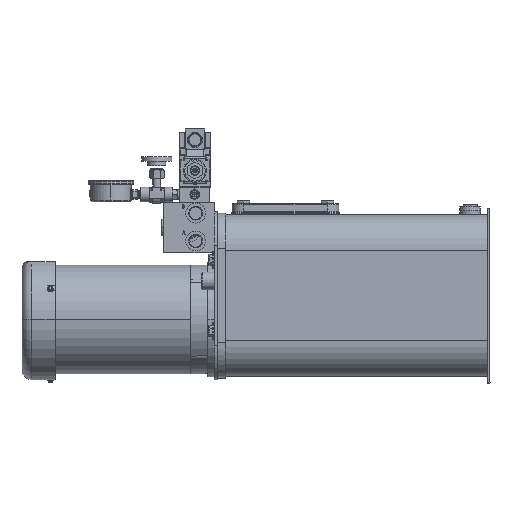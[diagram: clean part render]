
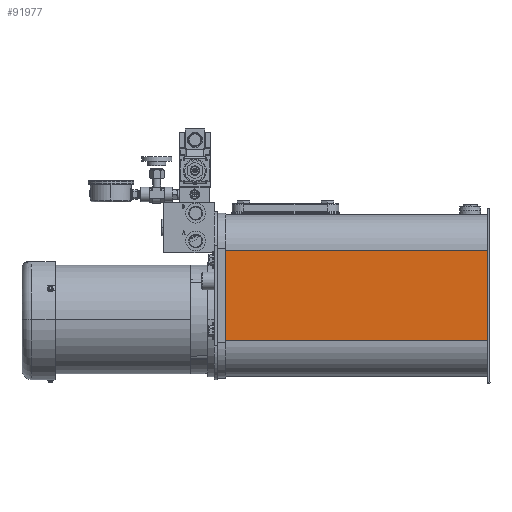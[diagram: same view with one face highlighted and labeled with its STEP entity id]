
A CAD part, top view. The second image highlights one B-rep face of the part: STEP entity #91977.
In plain terms, the highlighted planar face has unit normal (0, 0, 1).
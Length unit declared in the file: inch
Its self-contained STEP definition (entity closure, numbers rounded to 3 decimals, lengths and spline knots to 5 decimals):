
#5039 = CARTESIAN_POINT ( 'NONE',  ( -0.48316, 12.87104, 18.42602 ) ) ;
#6913 = EDGE_CURVE ( 'NONE', #51340, #74677, #55024, .T. ) ;
#10086 = CARTESIAN_POINT ( 'NONE',  ( -0.48316, 10.75144, 18.42602 ) ) ;
#14891 = ORIENTED_EDGE ( 'NONE', *, *, #135976, .F. ) ;
#20536 = CARTESIAN_POINT ( 'NONE',  ( -0.48316, 5.36564, 18.42602 ) ) ;
#20907 = VECTOR ( 'NONE', #145603, 39.37008 ) ;
#31379 = LINE ( 'NONE', #42716, #85090 ) ;
#42716 = CARTESIAN_POINT ( 'NONE',  ( 15.51684, 8.05854, 18.42602 ) ) ;
#43563 = VECTOR ( 'NONE', #64171, 39.37008 ) ;
#50444 = DIRECTION ( 'NONE',  ( 0., 0., -1. ) ) ;
#51340 = VERTEX_POINT ( 'NONE', #20536 ) ;
#53461 = EDGE_CURVE ( 'NONE', #74677, #72533, #108310, .T. ) ;
#53568 = LINE ( 'NONE', #99575, #20907 ) ;
#54286 = CARTESIAN_POINT ( 'NONE',  ( -0.48316, 12.87104, 18.42602 ) ) ;
#55024 = LINE ( 'NONE', #54286, #43563 ) ;
#60351 = FACE_OUTER_BOUND ( 'NONE', #121062, .T. ) ;
#64171 = DIRECTION ( 'NONE',  ( 0., 1., 0. ) ) ;
#66941 = DIRECTION ( 'NONE',  ( 0., -1., 0. ) ) ;
#72533 = VERTEX_POINT ( 'NONE', #79653 ) ;
#74677 = VERTEX_POINT ( 'NONE', #10086 ) ;
#79089 = ORIENTED_EDGE ( 'NONE', *, *, #6913, .F. ) ;
#79653 = CARTESIAN_POINT ( 'NONE',  ( 15.51684, 10.75144, 18.42602 ) ) ;
#82967 = DIRECTION ( 'NONE',  ( 0., -1., 0. ) ) ;
#85090 = VECTOR ( 'NONE', #66941, 39.37008 ) ;
#90631 = VERTEX_POINT ( 'NONE', #106497 ) ;
#91977 = ADVANCED_FACE ( 'NONE', ( #60351 ), #94298, .F. ) ;
#94298 = PLANE ( 'NONE',  #127663 ) ;
#96305 = ORIENTED_EDGE ( 'NONE', *, *, #141837, .T. ) ;
#99575 = CARTESIAN_POINT ( 'NONE',  ( -0.48316, 5.36564, 18.42602 ) ) ;
#106497 = CARTESIAN_POINT ( 'NONE',  ( 15.51684, 5.36564, 18.42602 ) ) ;
#108310 = LINE ( 'NONE', #147263, #147290 ) ;
#111058 = DIRECTION ( 'NONE',  ( 1., 0., 0. ) ) ;
#121062 = EDGE_LOOP ( 'NONE', ( #14891, #142067, #79089, #96305 ) ) ;
#127663 = AXIS2_PLACEMENT_3D ( 'NONE', #5039, #50444, #82967 ) ;
#135976 = EDGE_CURVE ( 'NONE', #72533, #90631, #31379, .T. ) ;
#141837 = EDGE_CURVE ( 'NONE', #51340, #90631, #53568, .T. ) ;
#142067 = ORIENTED_EDGE ( 'NONE', *, *, #53461, .F. ) ;
#145603 = DIRECTION ( 'NONE',  ( 1., 0., 0. ) ) ;
#147263 = CARTESIAN_POINT ( 'NONE',  ( -0.48316, 10.75144, 18.42602 ) ) ;
#147290 = VECTOR ( 'NONE', #111058, 39.37008 ) ;
